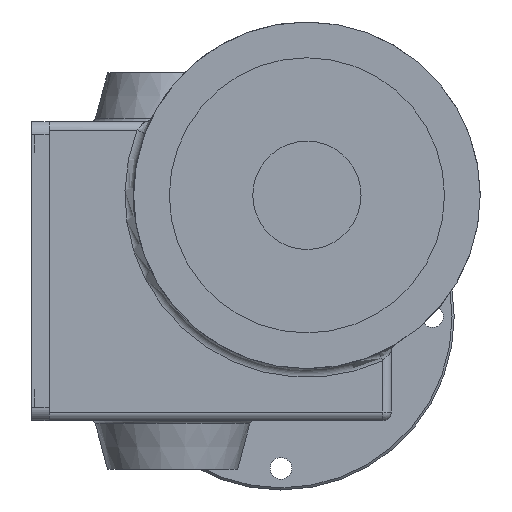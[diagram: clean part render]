
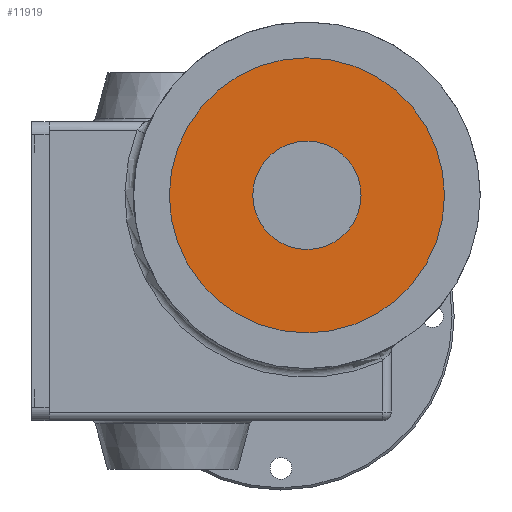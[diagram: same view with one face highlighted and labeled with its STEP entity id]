
A CAD part, left-side view. The second image highlights one B-rep face of the part: STEP entity #11919.
In plain terms, the highlighted planar face has unit normal (-1, 0, 0) as drawn and (1, 0, 0) by its records, which use the part's own axes.
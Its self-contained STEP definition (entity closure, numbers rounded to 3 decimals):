
#28 = DIRECTION ( 'NONE',  ( 0., 0., 1. ) ) ;
#152 = AXIS2_PLACEMENT_3D ( 'NONE', #783, #4072, #1732 ) ;
#426 = VERTEX_POINT ( 'NONE', #2596 ) ;
#622 = DIRECTION ( 'NONE',  ( 0., 0., 1. ) ) ;
#783 = CARTESIAN_POINT ( 'NONE',  ( 118., 0., 0. ) ) ;
#862 = EDGE_CURVE ( 'NONE', #426, #2020, #10024, .T. ) ;
#1428 = ORIENTED_EDGE ( 'NONE', *, *, #2790, .F. ) ;
#1732 = DIRECTION ( 'NONE',  ( 0., 0., 1. ) ) ;
#2020 = VERTEX_POINT ( 'NONE', #4751 ) ;
#2141 = VERTEX_POINT ( 'NONE', #14101 ) ;
#2272 = CARTESIAN_POINT ( 'NONE',  ( 118., 12.5, 0. ) ) ;
#2596 = CARTESIAN_POINT ( 'NONE',  ( 118., 0., 31.75 ) ) ;
#2790 = EDGE_CURVE ( 'NONE', #2020, #426, #10607, .T. ) ;
#3129 = CARTESIAN_POINT ( 'NONE',  ( 118., 0., 0. ) ) ;
#3190 = EDGE_LOOP ( 'NONE', ( #7052, #1428 ) ) ;
#3636 = VERTEX_POINT ( 'NONE', #11521 ) ;
#4072 = DIRECTION ( 'NONE',  ( -1., 0., 0. ) ) ;
#4202 = DIRECTION ( 'NONE',  ( -1., 0., 0. ) ) ;
#4284 = DIRECTION ( 'NONE',  ( 0., 0., 1. ) ) ;
#4341 = PLANE ( 'NONE',  #8791 ) ;
#4751 = CARTESIAN_POINT ( 'NONE',  ( 118., 0., -31.75 ) ) ;
#4930 = DIRECTION ( 'NONE',  ( -1., 0., 0. ) ) ;
#5110 = AXIS2_PLACEMENT_3D ( 'NONE', #3129, #5566, #28 ) ;
#5547 = AXIS2_PLACEMENT_3D ( 'NONE', #13626, #4930, #622 ) ;
#5566 = DIRECTION ( 'NONE',  ( -1., 0., 0. ) ) ;
#6498 = ORIENTED_EDGE ( 'NONE', *, *, #11936, .T. ) ;
#6648 = FACE_BOUND ( 'NONE', #10515, .T. ) ;
#7052 = ORIENTED_EDGE ( 'NONE', *, *, #862, .F. ) ;
#7453 = DIRECTION ( 'NONE',  ( -1., 0., 0. ) ) ;
#8791 = AXIS2_PLACEMENT_3D ( 'NONE', #2272, #4202, #4284 ) ;
#9811 = DIRECTION ( 'NONE',  ( 0., 0., 1. ) ) ;
#10024 = CIRCLE ( 'NONE', #152, 31.75 ) ;
#10371 = CIRCLE ( 'NONE', #12447, 12.5 ) ;
#10515 = EDGE_LOOP ( 'NONE', ( #6498, #11656 ) ) ;
#10607 = CIRCLE ( 'NONE', #5547, 31.75 ) ;
#10703 = EDGE_CURVE ( 'NONE', #2141, #3636, #10371, .T. ) ;
#11323 = CIRCLE ( 'NONE', #5110, 12.5 ) ;
#11521 = CARTESIAN_POINT ( 'NONE',  ( 118., 0., 12.5 ) ) ;
#11656 = ORIENTED_EDGE ( 'NONE', *, *, #10703, .T. ) ;
#11919 = ADVANCED_FACE ( 'NONE', ( #13054, #6648 ), #4341, .F. ) ;
#11936 = EDGE_CURVE ( 'NONE', #3636, #2141, #11323, .T. ) ;
#12447 = AXIS2_PLACEMENT_3D ( 'NONE', #13197, #7453, #9811 ) ;
#13054 = FACE_OUTER_BOUND ( 'NONE', #3190, .T. ) ;
#13197 = CARTESIAN_POINT ( 'NONE',  ( 118., 0., 0. ) ) ;
#13626 = CARTESIAN_POINT ( 'NONE',  ( 118., 0., 0. ) ) ;
#14101 = CARTESIAN_POINT ( 'NONE',  ( 118., 0., -12.5 ) ) ;
